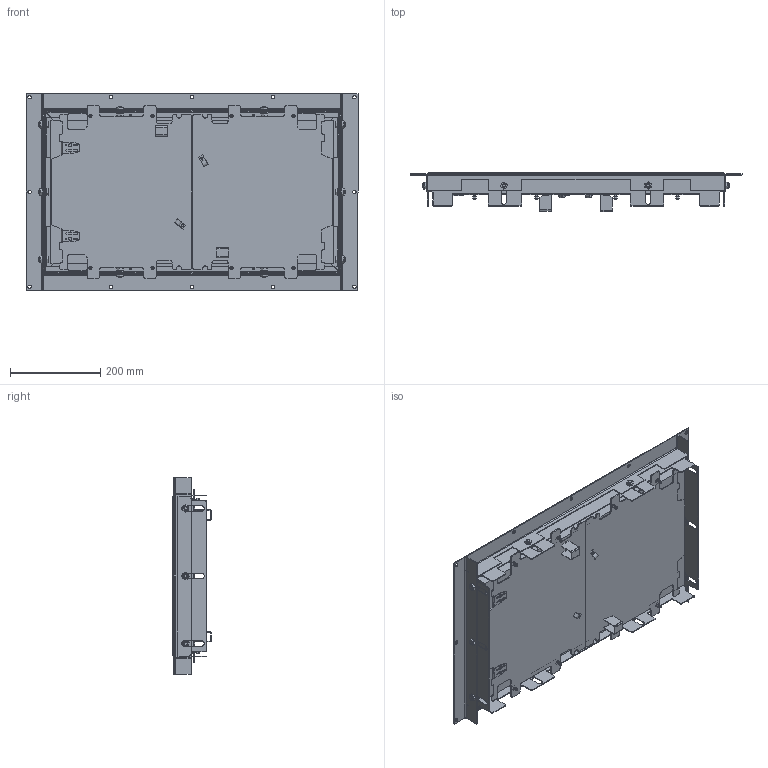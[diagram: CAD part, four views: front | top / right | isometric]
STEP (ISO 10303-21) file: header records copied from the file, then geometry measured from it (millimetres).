
FILE_DESCRIPTION (( 'STEP AP214' ), '1' );
FILE_NAME ('MS-I-20-M_120717_120725.STEP', '2019-02-07T09:47:28', ( '' ), ( '' ), 'SwSTEP 2.0', 'SolidWorks 2018', '' );
FILE_SCHEMA (( 'AUTOMOTIVE_DESIGN' ));
Length unit declared in the file: millimetre
Products named in the file (1): MS-I-20-M_120717_120725
Bounding box: 737 x 86.08 x 437 mm (x, y, z)
Volume: 10444887.8 mm3; surface area: 1173921.7 mm2
Topology: 1 solids, 1 shells, 2401 faces, 6100 edges, 3698 vertices
Faces by surface type: cylinder 966, plane 915, bspline 246, torus 120, cone 106, sphere 48
Entity records: 109891 total; most frequent: CARTESIAN_POINT 27257, ORIENTED_EDGE 11944, DIRECTION 11612, EDGE_CURVE 5972, AXIS2_PLACEMENT_3D 4362, VERTEX_POINT 3698, LINE 2888, VECTOR 2888
